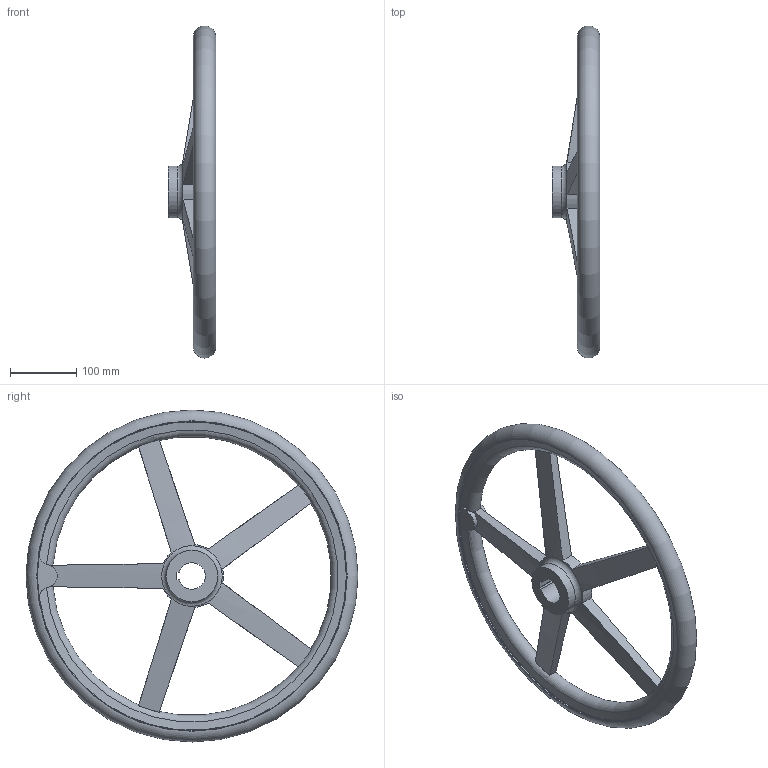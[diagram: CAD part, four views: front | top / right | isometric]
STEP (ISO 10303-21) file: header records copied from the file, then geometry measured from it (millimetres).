
FILE_DESCRIPTION( ( 'STEP AP203' ), '1' );
FILE_NAME( 'C:/Temp/Ganter_Step_05_03_2020/data/1_3/din_950/din_950_k/din_950_k_a/Handwheel DIN 950-AL-500-K40-A.stp', '2020-03-05T10:30:46', ( 'License CC BY-ND 4.0' ), ( 'CADENAS' ), ' ', 'PARTsolutions', ' ' );
FILE_SCHEMA( ( 'CONFIG_CONTROL_DESIGN' ) );
Length unit declared in the file: millimetre
Products named in the file (1): _Handwheel DIN 950-AL-500-K40-A
Bounding box: 72 x 499.99 x 499.99 mm (x, y, z)
Volume: 2072598.9 mm3; surface area: 280283.9 mm2
Topology: 1 solids, 1 shells, 59 faces, 179 edges, 116 vertices
Faces by surface type: torus 20, cylinder 18, plane 17, cone 4
Full cylindrical faces by diameter (mm): 78 x2, 466 x2
Entity records: 2499 total; most frequent: CARTESIAN_POINT 990, ORIENTED_EDGE 324, DIRECTION 274, EDGE_CURVE 162, AXIS2_PLACEMENT_3D 124, VERTEX_POINT 113, EDGE_LOOP 78, B_SPLINE_CURVE_WITH_KNOTS 72
